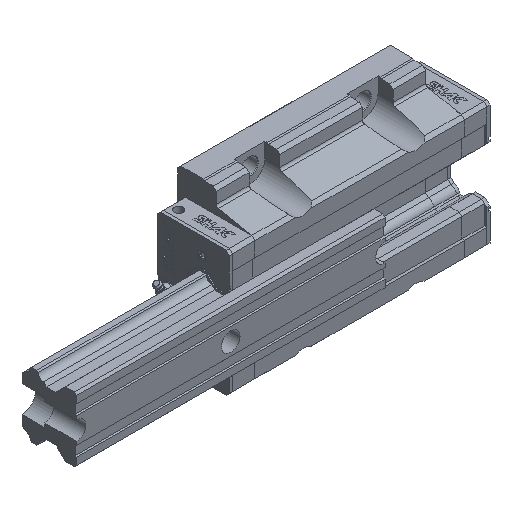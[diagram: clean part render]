
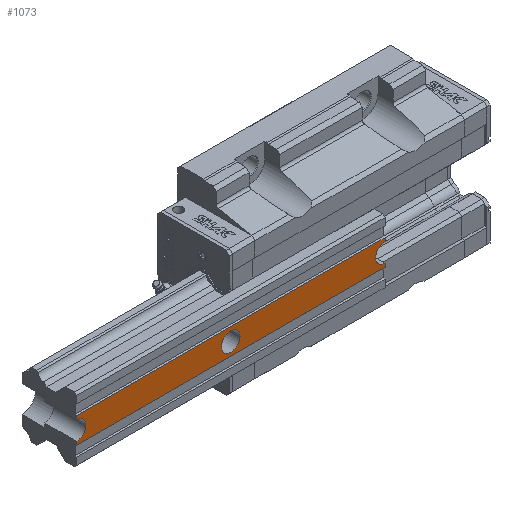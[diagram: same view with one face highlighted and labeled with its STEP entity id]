
A CAD part, isometric view. The second image highlights one B-rep face of the part: STEP entity #1073.
In plain terms, the highlighted planar face has unit normal (0, -1, 0).
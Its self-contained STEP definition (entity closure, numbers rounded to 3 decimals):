
#1073 = ADVANCED_FACE( '', ( #2410, #2411 ), #2412, .F. );
#2410 = FACE_BOUND( '', #4103, .T. );
#2411 = FACE_OUTER_BOUND( '', #4104, .T. );
#2412 = PLANE( '', #4105 );
#4103 = EDGE_LOOP( '', ( #6850 ) );
#4104 = EDGE_LOOP( '', ( #6851, #6852, #6853, #6854, #6855, #6856, #6857, #6858 ) );
#4105 = AXIS2_PLACEMENT_3D( '', #6859, #6860, #6861 );
#6850 = ORIENTED_EDGE( '', *, *, #11073, .F. );
#6851 = ORIENTED_EDGE( '', *, *, #11074, .F. );
#6852 = ORIENTED_EDGE( '', *, *, #11075, .F. );
#6853 = ORIENTED_EDGE( '', *, *, #11076, .F. );
#6854 = ORIENTED_EDGE( '', *, *, #11077, .F. );
#6855 = ORIENTED_EDGE( '', *, *, #11078, .T. );
#6856 = ORIENTED_EDGE( '', *, *, #11079, .T. );
#6857 = ORIENTED_EDGE( '', *, *, #11080, .F. );
#6858 = ORIENTED_EDGE( '', *, *, #10839, .T. );
#6859 = CARTESIAN_POINT( '', ( 150., 0., 29.5 ) );
#6860 = DIRECTION( '', ( 0., 1., 0. ) );
#6861 = DIRECTION( '', ( 0., 0., 1. ) );
#10839 = EDGE_CURVE( '', #13241, #13239, #13242, .T. );
#11073 = EDGE_CURVE( '', #13611, #13611, #13612, .T. );
#11074 = EDGE_CURVE( '', #13613, #13239, #13614, .T. );
#11075 = EDGE_CURVE( '', #13615, #13613, #13616, .T. );
#11076 = EDGE_CURVE( '', #13617, #13615, #13618, .T. );
#11077 = EDGE_CURVE( '', #13619, #13617, #13620, .T. );
#11078 = EDGE_CURVE( '', #13619, #13621, #13622, .T. );
#11079 = EDGE_CURVE( '', #13621, #13623, #13624, .T. );
#11080 = EDGE_CURVE( '', #13241, #13623, #13625, .T. );
#13239 = VERTEX_POINT( '', #16641 );
#13241 = VERTEX_POINT( '', #16644 );
#13242 = LINE( '', #16645, #16646 );
#13611 = VERTEX_POINT( '', #17169 );
#13612 = CIRCLE( '', #17170, 9. );
#13613 = VERTEX_POINT( '', #17171 );
#13614 = LINE( '', #17172, #17173 );
#13615 = VERTEX_POINT( '', #17174 );
#13616 = LINE( '', #17175, #17176 );
#13617 = VERTEX_POINT( '', #17177 );
#13618 = CIRCLE( '', #17178, 9. );
#13619 = VERTEX_POINT( '', #17179 );
#13620 = LINE( '', #17180, #17181 );
#13621 = VERTEX_POINT( '', #17182 );
#13622 = LINE( '', #17183, #17184 );
#13623 = VERTEX_POINT( '', #17185 );
#13624 = LINE( '', #17186, #17187 );
#13625 = CIRCLE( '', #17188, 9. );
#16641 = CARTESIAN_POINT( '', ( -150., 0., -12.5 ) );
#16644 = CARTESIAN_POINT( '', ( -150., 0., -9. ) );
#16645 = CARTESIAN_POINT( '', ( -150., 0., 29.5 ) );
#16646 = VECTOR( '', #19827, 1000. );
#17169 = CARTESIAN_POINT( '', ( 0., 0., -9. ) );
#17170 = AXIS2_PLACEMENT_3D( '', #20093, #20094, #20095 );
#17171 = CARTESIAN_POINT( '', ( 150., 0., -12.5 ) );
#17172 = CARTESIAN_POINT( '', ( 150., 0., -12.5 ) );
#17173 = VECTOR( '', #20096, 1000. );
#17174 = CARTESIAN_POINT( '', ( 150., 0., -9. ) );
#17175 = CARTESIAN_POINT( '', ( 150., 0., 29.5 ) );
#17176 = VECTOR( '', #20097, 1000. );
#17177 = CARTESIAN_POINT( '', ( 150., 0., 9. ) );
#17178 = AXIS2_PLACEMENT_3D( '', #20098, #20099, #20100 );
#17179 = CARTESIAN_POINT( '', ( 150., 0., 12.5 ) );
#17180 = CARTESIAN_POINT( '', ( 150., 0., 29.5 ) );
#17181 = VECTOR( '', #20101, 1000. );
#17182 = CARTESIAN_POINT( '', ( -150., 0., 12.5 ) );
#17183 = CARTESIAN_POINT( '', ( 150., 0., 12.5 ) );
#17184 = VECTOR( '', #20102, 1000. );
#17185 = CARTESIAN_POINT( '', ( -150., 0., 9. ) );
#17186 = CARTESIAN_POINT( '', ( -150., 0., 29.5 ) );
#17187 = VECTOR( '', #20103, 1000. );
#17188 = AXIS2_PLACEMENT_3D( '', #20104, #20105, #20106 );
#19827 = DIRECTION( '', ( 0., 0., -1. ) );
#20093 = CARTESIAN_POINT( '', ( 0., 0., 0. ) );
#20094 = DIRECTION( '', ( 0., -1., 0. ) );
#20095 = DIRECTION( '', ( 0., 0., -1. ) );
#20096 = DIRECTION( '', ( -1., 0., 0. ) );
#20097 = DIRECTION( '', ( 0., 0., -1. ) );
#20098 = CARTESIAN_POINT( '', ( 150., 0., 0. ) );
#20099 = DIRECTION( '', ( 0., -1., 0. ) );
#20100 = DIRECTION( '', ( 0., 0., -1. ) );
#20101 = DIRECTION( '', ( 0., 0., -1. ) );
#20102 = DIRECTION( '', ( -1., 0., 0. ) );
#20103 = DIRECTION( '', ( 0., 0., -1. ) );
#20104 = CARTESIAN_POINT( '', ( -150., 0., 0. ) );
#20105 = DIRECTION( '', ( 0., -1., 0. ) );
#20106 = DIRECTION( '', ( 0., 0., -1. ) );
